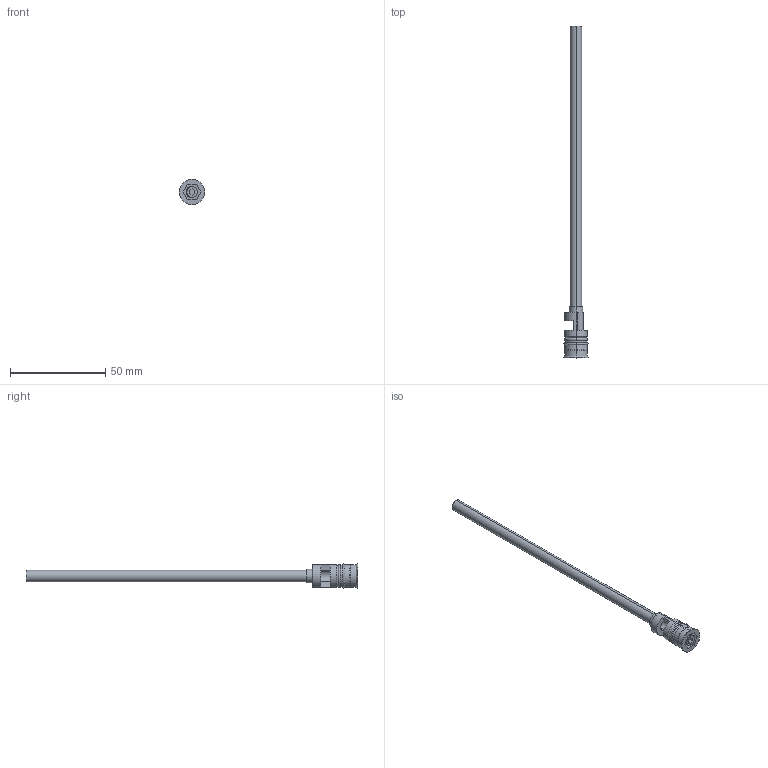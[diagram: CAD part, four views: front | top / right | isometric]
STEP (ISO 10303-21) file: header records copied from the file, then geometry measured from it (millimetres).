
FILE_DESCRIPTION (( 'STEP AP203' ), '1' );
FILE_NAME ('RF-12Fx150.STEP', '2017-12-04T07:52:07', ( 'Balzi' ), ( '' ), 'SwSTEP 2.0', 'SolidWorks 2017', '' );
FILE_SCHEMA (( 'CONFIG_CONTROL_DESIGN' ));
Length unit declared in the file: millimetre
Products named in the file (1): RF-12Fx150
Bounding box: 13.3 x 174 x 13.3 mm (x, y, z)
Volume: 3161.4 mm3; surface area: 6845.4 mm2
Topology: 1 solids, 1 shells, 72 faces, 164 edges, 102 vertices
Faces by surface type: cylinder 26, plane 26, cone 12, torus 8
Entity records: 2124 total; most frequent: DIRECTION 387, CARTESIAN_POINT 358, ORIENTED_EDGE 328, EDGE_CURVE 164, AXIS2_PLACEMENT_3D 155, VERTEX_POINT 102, CIRCLE 82, EDGE_LOOP 82
